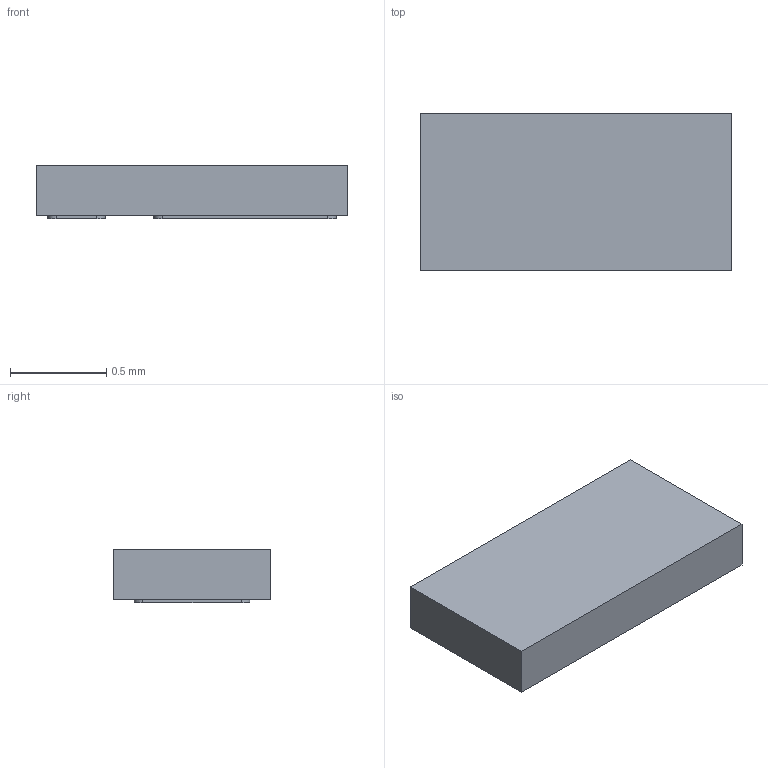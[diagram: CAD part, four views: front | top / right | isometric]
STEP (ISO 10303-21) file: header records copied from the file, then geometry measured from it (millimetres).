
FILE_DESCRIPTION(/* description */ ('Unknown'),/* implementation_level */ '2;1');
FILE_NAME(/* name */ 'DSN1608-2L',/* time_stamp */ '2023-10-04T16:27:20+08:00',/* author */ ('Unknown'),/* organization */ ('Unknown'),/* preprocessor_version */ 'ST-DEVELOPER v18.104',/* originating_system */ 'Solid Edge',/* authorisation */ 'Unknown');
FILE_SCHEMA (('AUTOMOTIVE_DESIGN {1 0 10303 214 3 1 1}'));
Length unit declared in the file: millimetre
Products named in the file (1): DSN1608-2L
Bounding box: 1.62 x 0.82 x 0.28 mm (x, y, z)
Volume: 0.4 mm3; surface area: 5.5 mm2
Topology: 3 solids, 3 shells, 26 faces, 60 edges, 40 vertices
Faces by surface type: plane 18, cylinder 8
Entity records: 781 total; most frequent: DIRECTION 130, CARTESIAN_POINT 127, ORIENTED_EDGE 120, EDGE_CURVE 60, LINE 44, VECTOR 44, AXIS2_PLACEMENT_3D 43, VERTEX_POINT 40
